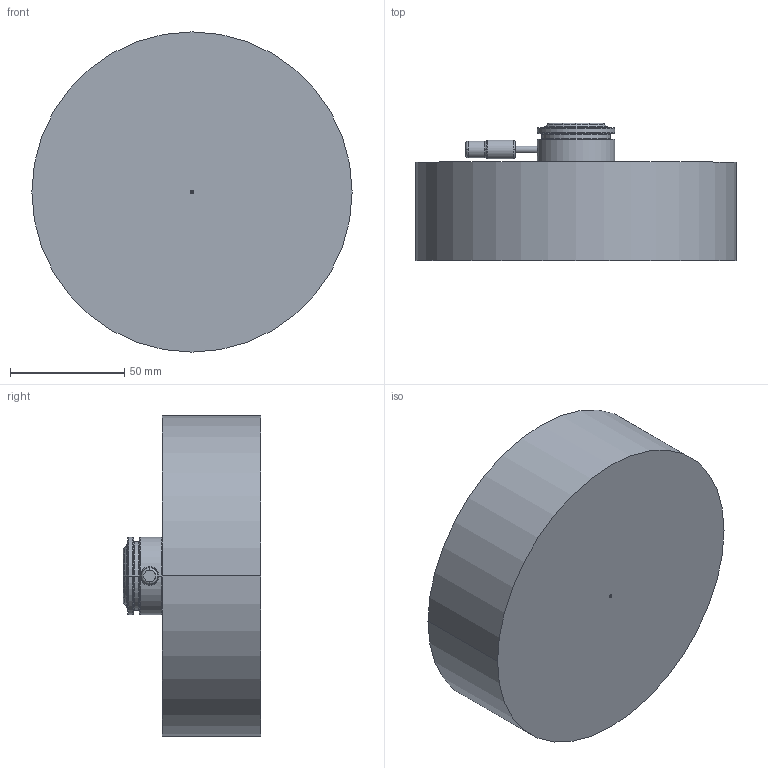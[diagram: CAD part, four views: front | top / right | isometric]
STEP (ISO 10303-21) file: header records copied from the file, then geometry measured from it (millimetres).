
FILE_DESCRIPTION((''),'2;1');
FILE_NAME('M34G103.stp','2020-02-25T14:33:01',(''),(''),'AutoCAD STEP 2000i','AutoCAD 2000i',', , ');
FILE_SCHEMA(('CONFIG_CONTROL_DESIGN'));
Length unit declared in the file: millimetre
Products named in the file (3): M34G103; NOZZLE M101G34; MOLD BODY 101 G M 34
Assembly tree (2 placements, depth 2):
  M34G103
    NOZZLE M101G34
    MOLD BODY 101 G M 34
Bounding box: 140 x 60 x 140 mm (x, y, z)
Volume: 674342.7 mm3; surface area: 59673.3 mm2
Topology: 2 solids, 2 shells, 118 faces, 281 edges, 176 vertices
Faces by surface type: cylinder 36, cone 36, bspline 19, plane 17, torus 10
Entity records: 4302 total; most frequent: CARTESIAN_POINT 1383, DIRECTION 671, ORIENTED_EDGE 546, AXIS2_PLACEMENT_3D 299, EDGE_CURVE 273, CIRCLE 197, VERTEX_POINT 174, EDGE_LOOP 135
